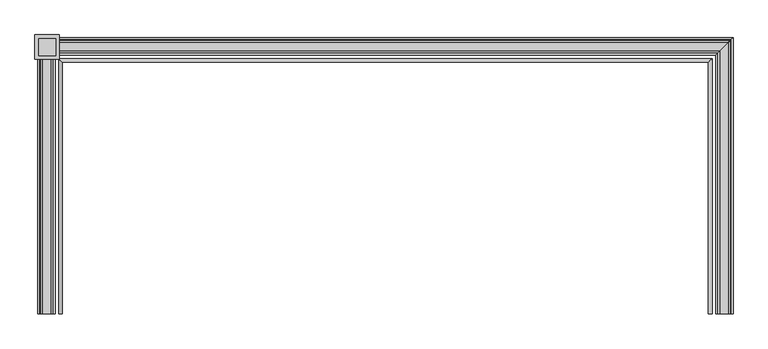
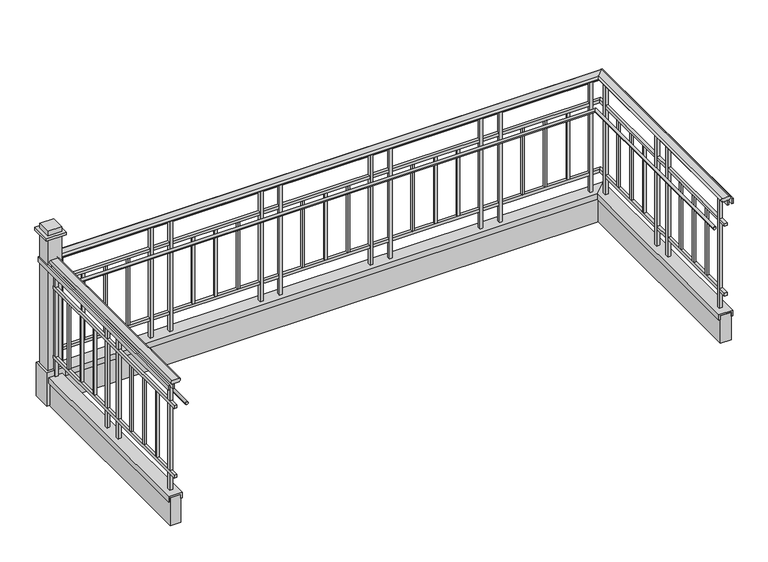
"""IFC4 building model written with IfcOpenShell, lengths in millimetres: railing geometry, Deco Type."""

from ifc_helpers import new_model, si_unit, frame, origin, place, context, project, spatial, polyline, circle_curve, ellipse_curve, outline, extrude, faceted_brep, source, transform, mapped, element, save
from ifc_brep_helpers import plane_surface, cylinder_surface, advanced_brep


def railing_db20407b(model_context):
    return source(origin(), model_context, "Body", "SolidModel", [
        advanced_brep(
        [(10061.4002076, 11455.7088201, 7194.55), (10061.4002076, 11455.7088201, 7172.3248415), (10061.4002076, 11455.7088201, 7162.8), (10124.7499602, 11455.7088201, 7162.8), (10124.7499602, 11455.7088201, 7172.261629), (10124.7499602, 11455.7088201, 7194.55), (10061.4002076, 13298.9465675, 7194.55), (10061.4002076, 13298.9465675, 7172.3248415), (10061.4002076, 13298.9465675, 7162.8), (10124.7499602, 13362.2963201, 7162.8), (10124.7499602, 13362.2963201, 7172.261629), (10124.7499602, 13362.2963201, 7194.55), (5376.3872128, 13298.9465675, 7194.55), (5376.3872128, 13298.9465675, 7172.3248415), (5376.3872128, 13298.9465675, 7162.8), (5313.0374602, 13362.2963201, 7162.8), (5313.0374602, 13362.2963201, 7172.261629), (5313.0374602, 13362.2963201, 7194.55), (5376.3872128, 11455.7088201, 7194.55), (5313.0374602, 11455.7088201, 7194.55), (5313.0374602, 11455.7088201, 7172.261629), (5313.0374602, 11455.7088201, 7162.8), (5376.3872128, 11455.7088201, 7162.8), (5376.3872128, 11455.7088201, 7172.3248415)],
        [
            (0, 1, circle_curve(frame((10061.4002076, 11455.7088201, 7183.4374207), z_axis=(0.0, -1.0, 0.0), x_axis=(1.0, 0.0, 0.0)), 11.1125793)),
            (1, 2),
            (2, 3),
            (3, 4),
            (4, 5, circle_curve(frame((10124.7499602, 11455.7088201, 7183.4058145), z_axis=(0.0, -1.0, 0.0), x_axis=(1.0, 0.0, 0.0)), 11.1441855)),
            (5, 0),
            (0, 6),
            (6, 7, ellipse_curve(frame((10061.4002076, 13298.9465675, 7183.4374207), z_axis=(0.7071067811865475, -0.7071067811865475, 0.0), x_axis=(-0.7071067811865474, -0.7071067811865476, 0.0)), 15.7155603, 11.1125793)),
            (7, 1),
            (7, 8),
            (8, 2),
            (8, 9),
            (9, 3),
            (9, 10),
            (10, 4),
            (10, 11, ellipse_curve(frame((10124.7499602, 13362.2963201, 7183.4058145), z_axis=(0.7071067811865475, -0.7071067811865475, 0.0), x_axis=(-0.7071067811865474, -0.7071067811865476, 0.0)), 15.7602583, 11.1441855)),
            (11, 5),
            (11, 6),
            (6, 12),
            (12, 13, ellipse_curve(frame((5376.3872128, 13298.9465675, 7183.4374207), z_axis=(0.7071067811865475, 0.7071067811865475, 0.0), x_axis=(0.7071067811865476, -0.7071067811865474, 0.0)), 15.7155603, 11.1125793)),
            (13, 7),
            (13, 14),
            (14, 8),
            (14, 15),
            (15, 9),
            (15, 16),
            (16, 10),
            (16, 17, ellipse_curve(frame((5313.0374602, 13362.2963201, 7183.4058145), z_axis=(0.7071067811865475, 0.7071067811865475, 0.0), x_axis=(0.7071067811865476, -0.7071067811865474, 0.0)), 15.7602583, 11.1441855)),
            (17, 11),
            (17, 12),
            (18, 19),
            (19, 20, circle_curve(frame((5313.0374602, 11455.7088201, 7183.4058145), z_axis=(0.0, -1.0, 0.0), x_axis=(-1.0, 0.0, 0.0)), 11.1441855)),
            (20, 21),
            (21, 22),
            (22, 23),
            (23, 18, circle_curve(frame((5376.3872128, 11455.7088201, 7183.4374207), z_axis=(0.0, -1.0, 0.0), x_axis=(-1.0, 0.0, 0.0)), 11.1125793)),
            (12, 18),
            (23, 13),
            (22, 14),
            (21, 15),
            (20, 16),
            (19, 17),
        ],
        [
            plane_surface(frame((10092.9999602, 11455.7088201, 7162.8), z_axis=(0.0, -1.0, 0.0), x_axis=(0.0, 0.0, 1.0))),
            cylinder_surface(frame((10061.4002076, 11455.7088201, 7183.4374207), z_axis=(0.0, -1.0, 0.0), x_axis=(1.0, 0.0, 0.0)), 11.1125793),
            plane_surface(frame((10061.4002076, 11455.7088201, 7172.3248415), z_axis=(-1.0, 0.0, 0.0), x_axis=(0.0, 1.0, 0.0))),
            plane_surface(frame((10061.4002076, 11455.7088201, 7162.8), z_axis=(0.0, 0.0, -1.0), x_axis=(0.0, 1.0, 0.0))),
            plane_surface(frame((10124.7499602, 11455.7088201, 7162.8), z_axis=(1.0, 0.0, 0.0), x_axis=(0.0, 1.0, 0.0))),
            cylinder_surface(frame((10124.7499602, 11455.7088201, 7183.4058145), z_axis=(0.0, -1.0, 0.0), x_axis=(1.0, 0.0, 0.0)), 11.1441855),
            plane_surface(frame((10124.7499602, 11455.7088201, 7194.55), z_axis=(0.0, 0.0, 1.0), x_axis=(0.0, 1.0, 0.0))),
            cylinder_surface(frame((10092.9999602, 13298.9465675, 7183.4374207), z_axis=(1.0, 0.0, 0.0), x_axis=(0.0, 1.0, 0.0)), 11.1125793),
            plane_surface(frame((10061.4002076, 13298.9465675, 7172.3248415), z_axis=(0.0, -1.0, 0.0), x_axis=(-1.0, 0.0, 0.0))),
            plane_surface(frame((10061.4002076, 13298.9465675, 7162.8), z_axis=(0.0, 0.0, -1.0), x_axis=(-1.0, 0.0, 0.0))),
            plane_surface(frame((10124.7499602, 13362.2963201, 7162.8), z_axis=(0.0, 1.0, 0.0), x_axis=(-1.0, 0.0, 0.0))),
            cylinder_surface(frame((10092.9999602, 13362.2963201, 7183.4058145), z_axis=(1.0, 0.0, 0.0), x_axis=(0.0, 1.0, 0.0)), 11.1441855),
            plane_surface(frame((10124.7499602, 13362.2963201, 7194.55), z_axis=(0.0, 0.0, 1.0), x_axis=(-1.0, 0.0, 0.0))),
            plane_surface(frame((5344.7874602, 11455.7088201, 7162.8), z_axis=(0.0, -1.0, 0.0), x_axis=(0.0, 0.0, -1.0))),
            cylinder_surface(frame((5376.3872128, 13330.5463201, 7183.4374207), z_axis=(0.0, 1.0, 0.0), x_axis=(-1.0, 0.0, 0.0)), 11.1125793),
            plane_surface(frame((5376.3872128, 13298.9465675, 7172.3248415), z_axis=(1.0, 0.0, 0.0), x_axis=(0.0, -1.0, 0.0))),
            plane_surface(frame((5376.3872128, 13298.9465675, 7162.8), z_axis=(0.0, 0.0, -1.0), x_axis=(0.0, -1.0, 0.0))),
            plane_surface(frame((5313.0374602, 13362.2963201, 7162.8), z_axis=(-1.0, 0.0, 0.0), x_axis=(0.0, -1.0, 0.0))),
            cylinder_surface(frame((5313.0374602, 13330.5463201, 7183.4058145), z_axis=(0.0, 1.0, 0.0), x_axis=(-1.0, 0.0, 0.0)), 11.1441855),
            plane_surface(frame((5313.0374602, 13362.2963201, 7194.55), z_axis=(0.0, 0.0, 1.0), x_axis=(0.0, -1.0, 0.0))),
        ],
        [
            (0, [[1, 2, 3, 4, 5, 6]]),
            (1, [[-1, 7, 8, 9]]),
            (2, [[-2, -9, 10, 11]]),
            (3, [[-3, -11, 12, 13]]),
            (4, [[-4, -13, 14, 15]]),
            (5, [[-5, -15, 16, 17]]),
            (6, [[-6, -17, 18, -7]]),
            (7, [[-8, 19, 20, 21]]),
            (8, [[-10, -21, 22, 23]]),
            (9, [[-12, -23, 24, 25]]),
            (10, [[-14, -25, 26, 27]]),
            (11, [[-16, -27, 28, 29]]),
            (12, [[-18, -29, 30, -19]]),
            (13, [[31, 32, 33, 34, 35, 36]]),
            (14, [[-20, 37, -36, 38]]),
            (15, [[-22, -38, -35, 39]]),
            (16, [[-24, -39, -34, 40]]),
            (17, [[-26, -40, -33, 41]]),
            (18, [[-28, -41, -32, 42]]),
            (19, [[-30, -42, -31, -37]]),
        ],
    ),
        faceted_brep([(10118.4750839, 11455.7088201, 7162.8), (10105.7750839, 11455.7088201, 7162.8), (10105.7750839, 11455.7088201, 7118.35), (10118.4750839, 11455.7088201, 7118.35), (10118.4750839, 13356.0214438, 7162.8), (10105.7750839, 13343.3214438, 7162.8), (10105.7750839, 13343.3214438, 7118.35), (10118.4750839, 13356.0214438, 7118.35), (5319.3123365, 13356.0214438, 7162.8), (5332.0123365, 13343.3214438, 7162.8), (5332.0123365, 13343.3214438, 7118.35), (5319.3123365, 13356.0214438, 7118.35), (5319.3123365, 11455.7088201, 7162.8), (5319.3123365, 11455.7088201, 7118.35), (5332.0123365, 11455.7088201, 7118.35), (5332.0123365, 11455.7088201, 7162.8)], [[[0, 1, 2, 3]], [[1, 0, 4, 5]], [[2, 1, 5, 6]], [[3, 2, 6, 7]], [[0, 3, 7, 4]], [[5, 4, 8, 9]], [[6, 5, 9, 10]], [[7, 6, 10, 11]], [[4, 7, 11, 8]], [[12, 13, 14, 15]], [[9, 8, 12, 15]], [[10, 9, 15, 14]], [[11, 10, 14, 13]], [[8, 11, 13, 12]]]),
        faceted_brep([(10156.5750839, 11455.7088201, 7162.8), (10143.8750839, 11455.7088201, 7162.8), (10143.8750839, 11455.7088201, 7118.35), (10156.5750839, 11455.7088201, 7118.35), (10156.5750839, 13394.1214438, 7162.8), (10143.8750839, 13381.4214438, 7162.8), (10143.8750839, 13381.4214438, 7118.35), (10156.5750839, 13394.1214438, 7118.35), (5281.2123365, 13394.1214438, 7162.8), (5293.9123365, 13381.4214438, 7162.8), (5293.9123365, 13381.4214438, 7118.35), (5281.2123365, 13394.1214438, 7118.35), (5281.2123365, 11455.7088201, 7162.8), (5281.2123365, 11455.7088201, 7118.35), (5293.9123365, 11455.7088201, 7118.35), (5293.9123365, 11455.7088201, 7162.8)], [[[0, 1, 2, 3]], [[1, 0, 4, 5]], [[2, 1, 5, 6]], [[3, 2, 6, 7]], [[0, 3, 7, 4]], [[5, 4, 8, 9]], [[6, 5, 9, 10]], [[7, 6, 10, 11]], [[4, 7, 11, 8]], [[12, 13, 14, 15]], [[9, 8, 12, 15]], [[10, 9, 15, 14]], [[11, 10, 14, 13]], [[8, 11, 13, 12]]]),
        faceted_brep([(10105.6999602, 11455.7088201, 6959.6), (10080.2999602, 11455.7088201, 6959.6), (10080.2999602, 11455.7088201, 6934.2), (10105.6999602, 11455.7088201, 6934.2), (10105.6999602, 13343.2463201, 6959.6), (10080.2999602, 13317.8463201, 6959.6), (10080.2999602, 13317.8463201, 6934.2), (10105.6999602, 13343.2463201, 6934.2), (5332.0874602, 13343.2463201, 6959.6), (5357.4874602, 13317.8463201, 6959.6), (5357.4874602, 13317.8463201, 6934.2), (5332.0874602, 13343.2463201, 6934.2), (5332.0874602, 11455.7088201, 6959.6), (5332.0874602, 11455.7088201, 6934.2), (5357.4874602, 11455.7088201, 6934.2), (5357.4874602, 11455.7088201, 6959.6)], [[[0, 1, 2, 3]], [[1, 0, 4, 5]], [[2, 1, 5, 6]], [[3, 2, 6, 7]], [[0, 3, 7, 4]], [[5, 4, 8, 9]], [[6, 5, 9, 10]], [[7, 6, 10, 11]], [[4, 7, 11, 8]], [[12, 13, 14, 15]], [[9, 8, 12, 15]], [[10, 9, 15, 14]], [[11, 10, 14, 13]], [[8, 11, 13, 12]]]),
        advanced_brep(
        [(9983.4624602, 11455.7088201, 6946.9), (10008.8624602, 11455.7088201, 6946.9), (9983.4624602, 13221.0088201, 6946.9), (10008.8624602, 13246.4088201, 6946.9), (5454.3249602, 13221.0088201, 6946.9), (5428.9249602, 13246.4088201, 6946.9), (5454.3249602, 11455.7088201, 6946.9), (5428.9249602, 11455.7088201, 6946.9)],
        [
            (0, 1, circle_curve(frame((9996.1624602, 11455.7088201, 6946.9), z_axis=(0.0, -1.0, 0.0), x_axis=(1.0, 0.0, 0.0)), 12.7)),
            (1, 0, circle_curve(frame((9996.1624602, 11455.7088201, 6946.9), z_axis=(0.0, -1.0, 0.0), x_axis=(1.0, 0.0, 0.0)), 12.7)),
            (0, 2),
            (2, 3, ellipse_curve(frame((9996.1624602, 13233.7088201, 6946.9), z_axis=(0.7071067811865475, -0.7071067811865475, 0.0), x_axis=(-0.7071067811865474, -0.7071067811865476, 0.0)), 17.9605122, 12.7)),
            (3, 1),
            (3, 2, ellipse_curve(frame((9996.1624602, 13233.7088201, 6946.9), z_axis=(0.7071067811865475, -0.7071067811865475, 0.0), x_axis=(-0.7071067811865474, -0.7071067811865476, 0.0)), 17.9605122, 12.7)),
            (2, 4),
            (4, 5, ellipse_curve(frame((5441.6249602, 13233.7088201, 6946.9), z_axis=(0.7071067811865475, 0.7071067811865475, 0.0), x_axis=(0.7071067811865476, -0.7071067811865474, 0.0)), 17.9605122, 12.7)),
            (5, 3),
            (5, 4, ellipse_curve(frame((5441.6249602, 13233.7088201, 6946.9), z_axis=(0.7071067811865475, 0.7071067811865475, 0.0), x_axis=(0.7071067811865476, -0.7071067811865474, 0.0)), 17.9605122, 12.7)),
            (6, 7, circle_curve(frame((5441.6249602, 11455.7088201, 6946.9), z_axis=(0.0, -1.0, 0.0), x_axis=(-1.0, 0.0, 0.0)), 12.7)),
            (7, 6, circle_curve(frame((5441.6249602, 11455.7088201, 6946.9), z_axis=(0.0, -1.0, 0.0), x_axis=(-1.0, 0.0, 0.0)), 12.7)),
            (4, 6),
            (7, 5),
        ],
        [
            plane_surface(frame((9996.1624602, 11455.7088201, 6946.9), z_axis=(0.0, -1.0, 0.0), x_axis=(0.0, 0.0, 1.0))),
            cylinder_surface(frame((9996.1624602, 11455.7088201, 6946.9), z_axis=(0.0, -1.0, 0.0), x_axis=(1.0, 0.0, 0.0)), 12.7),
            cylinder_surface(frame((9996.1624602, 13233.7088201, 6946.9), z_axis=(1.0, 0.0, 0.0), x_axis=(0.0, 1.0, 0.0)), 12.7),
            plane_surface(frame((5441.6249602, 11455.7088201, 6946.9), z_axis=(0.0, -1.0, 0.0), x_axis=(0.0, 0.0, -1.0))),
            cylinder_surface(frame((5441.6249602, 13233.7088201, 6946.9), z_axis=(0.0, 1.0, 0.0), x_axis=(-1.0, 0.0, 0.0)), 12.7),
        ],
        [
            (0, [[1, 2]]),
            (1, [[-1, 3, 4, 5]]),
            (1, [[-2, -5, 6, -3]]),
            (2, [[-4, 7, 8, 9]]),
            (2, [[-6, -9, 10, -7]]),
            (3, [[11, 12]]),
            (4, [[-8, 13, -12, 14]]),
            (4, [[-10, -14, -11, -13]]),
        ],
    ),
        faceted_brep([(10105.6999602, 11455.7088201, 6324.6), (10080.2999602, 11455.7088201, 6324.6), (10080.2999602, 11455.7088201, 6299.2), (10105.6999602, 11455.7088201, 6299.2), (10105.6999602, 13343.2463201, 6324.6), (10080.2999602, 13317.8463201, 6324.6), (10080.2999602, 13317.8463201, 6299.2), (10105.6999602, 13343.2463201, 6299.2), (5332.0874602, 13343.2463201, 6324.6), (5357.4874602, 13317.8463201, 6324.6), (5357.4874602, 13317.8463201, 6299.2), (5332.0874602, 13343.2463201, 6299.2), (5332.0874602, 11455.7088201, 6324.6), (5332.0874602, 11455.7088201, 6299.2), (5357.4874602, 11455.7088201, 6299.2), (5357.4874602, 11455.7088201, 6324.6)], [[[0, 1, 2, 3]], [[1, 0, 4, 5]], [[2, 1, 5, 6]], [[3, 2, 6, 7]], [[0, 3, 7, 4]], [[5, 4, 8, 9]], [[6, 5, 9, 10]], [[7, 6, 10, 11]], [[4, 7, 11, 8]], [[12, 13, 14, 15]], [[9, 8, 12, 15]], [[10, 9, 15, 14]], [[11, 10, 14, 13]], [[8, 11, 13, 12]]]),
        faceted_brep([(10034.3375839, 11455.7088201, 6145.0362864), (10034.3375839, 11455.7088201, 6096.0), (10047.0375839, 11455.7088201, 6096.0), (10047.0375839, 11455.7088201, 6132.3362864), (10139.1125839, 11455.7088201, 6132.3362864), (10139.1125839, 11455.7088201, 6096.0), (10151.8125839, 11455.7088201, 6096.0), (10151.8125839, 11455.7088201, 6145.0362864), (10034.3375839, 13271.8839438, 6145.0362864), (10034.3375839, 13271.8839438, 6096.0), (10047.0375839, 13284.5839438, 6096.0), (10047.0375839, 13284.5839438, 6132.3362864), (10139.1125839, 13376.6589438, 6132.3362864), (10139.1125839, 13376.6589438, 6096.0), (10151.8125839, 13389.3589438, 6096.0), (10151.8125839, 13389.3589438, 6145.0362864), (5403.4498365, 13271.8839438, 6145.0362864), (5403.4498365, 13271.8839438, 6096.0), (5390.7498365, 13284.5839438, 6096.0), (5390.7498365, 13284.5839438, 6132.3362864), (5298.6748365, 13376.6589438, 6132.3362864), (5298.6748365, 13376.6589438, 6096.0), (5285.9748365, 13389.3589438, 6096.0), (5285.9748365, 13389.3589438, 6145.0362864), (5403.4498365, 11455.7088201, 6145.0362864), (5285.9748365, 11455.7088201, 6145.0362864), (5285.9748365, 11455.7088201, 6096.0), (5298.6748365, 11455.7088201, 6096.0), (5298.6748365, 11455.7088201, 6132.3362864), (5390.7498365, 11455.7088201, 6132.3362864), (5390.7498365, 11455.7088201, 6096.0), (5403.4498365, 11455.7088201, 6096.0)], [[[0, 1, 2, 3, 4, 5, 6, 7]], [[1, 0, 8, 9]], [[2, 1, 9, 10]], [[3, 2, 10, 11]], [[4, 3, 11, 12]], [[5, 4, 12, 13]], [[6, 5, 13, 14]], [[7, 6, 14, 15]], [[0, 7, 15, 8]], [[9, 8, 16, 17]], [[10, 9, 17, 18]], [[11, 10, 18, 19]], [[12, 11, 19, 20]], [[13, 12, 20, 21]], [[14, 13, 21, 22]], [[15, 14, 22, 23]], [[8, 15, 23, 16]], [[24, 25, 26, 27, 28, 29, 30, 31]], [[17, 16, 24, 31]], [[18, 17, 31, 30]], [[19, 18, 30, 29]], [[20, 19, 29, 28]], [[21, 20, 28, 27]], [[22, 21, 27, 26]], [[23, 22, 26, 25]], [[16, 23, 25, 24]]]),
        faceted_brep([(10047.0375839, 11455.7088201, 6132.3362864), (10047.0375839, 11455.7088201, 5878.3362864), (10139.1125839, 11455.7088201, 5878.3362864), (10139.1125839, 11455.7088201, 6132.3362864), (10047.0375839, 13284.5839438, 6132.3362864), (10047.0375839, 13284.5839438, 5878.3362864), (10139.1125839, 13376.6589438, 5878.3362864), (10139.1125839, 13376.6589438, 6132.3362864), (5390.7498365, 13284.5839438, 6132.3362864), (5390.7498365, 13284.5839438, 5878.3362864), (5298.6748365, 13376.6589438, 5878.3362864), (5298.6748365, 13376.6589438, 6132.3362864), (5390.7498365, 11455.7088201, 6132.3362864), (5298.6748365, 11455.7088201, 6132.3362864), (5298.6748365, 11455.7088201, 5878.3362864), (5390.7498365, 11455.7088201, 5878.3362864)], [[[0, 1, 2, 3]], [[1, 0, 4, 5]], [[2, 1, 5, 6]], [[3, 2, 6, 7]], [[0, 3, 7, 4]], [[5, 4, 8, 9]], [[6, 5, 9, 10]], [[7, 6, 10, 11]], [[4, 7, 11, 8]], [[12, 13, 14, 15]], [[9, 8, 12, 15]], [[10, 9, 15, 14]], [[11, 10, 14, 13]], [[8, 11, 13, 12]]]),
        extrude(outline(polyline([(5334.8655852, 11550.9996749), (5360.2655852, 11550.9996749), (5360.2655852, 11525.5996749), (5334.8655852, 11525.5996749), (5334.8655852, 11550.9996749)])), frame((0.0, 0.0, 6145.0362864), z_axis=(0.0, 0.0, 1.0), x_axis=(1.0, 0.0, 0.0)), (0.0, 0.0, 1.0), 1017.7637136),
        extrude(outline(polyline([(5338.0405852, 11740.5366693), (5357.0905852, 11740.5366693), (5357.0905852, 11721.4866693), (5338.0405852, 11721.4866693), (5338.0405852, 11740.5366693)])), frame((0.0, 0.0, 6324.6), z_axis=(0.0, 0.0, 1.0), x_axis=(1.0, 0.0, 0.0)), (0.0, 0.0, 1.0), 609.6),
        extrude(outline(polyline([(5338.0405852, 11933.2486638), (5357.0905852, 11933.2486638), (5357.0905852, 11914.1986638), (5338.0405852, 11914.1986638), (5338.0405852, 11933.2486638)])), frame((0.0, 0.0, 6324.6), z_axis=(0.0, 0.0, 1.0), x_axis=(1.0, 0.0, 0.0)), (0.0, 0.0, 1.0), 609.6),
        extrude(outline(polyline([(5338.0405852, 12125.9606583), (5357.0905852, 12125.9606583), (5357.0905852, 12106.9106583), (5338.0405852, 12106.9106583), (5338.0405852, 12125.9606583)])), frame((0.0, 0.0, 6324.6), z_axis=(0.0, 0.0, 1.0), x_axis=(1.0, 0.0, 0.0)), (0.0, 0.0, 1.0), 609.6),
        extrude(outline(polyline([(5334.8655852, 12321.8476528), (5360.2655852, 12321.8476528), (5360.2655852, 12296.4476528), (5334.8655852, 12296.4476528), (5334.8655852, 12321.8476528)])), frame((0.0, 0.0, 6145.0362864), z_axis=(0.0, 0.0, 1.0), x_axis=(1.0, 0.0, 0.0)), (0.0, 0.0, 1.0), 1017.7637136),
        extrude(outline(polyline([(5334.8655852, 12487.0293624), (5360.2655852, 12487.0293624), (5360.2655852, 12461.6293624), (5334.8655852, 12461.6293624), (5334.8655852, 12487.0293624)])), frame((0.0, 0.0, 6145.0362864), z_axis=(0.0, 0.0, 1.0), x_axis=(1.0, 0.0, 0.0)), (0.0, 0.0, 1.0), 1017.7637136),
        extrude(outline(polyline([(5338.0405852, 12676.5663568), (5357.0905852, 12676.5663568), (5357.0905852, 12657.5163568), (5338.0405852, 12657.5163568), (5338.0405852, 12676.5663568)])), frame((0.0, 0.0, 6324.6), z_axis=(0.0, 0.0, 1.0), x_axis=(1.0, 0.0, 0.0)), (0.0, 0.0, 1.0), 609.6),
        extrude(outline(polyline([(5338.0405852, 12869.2783513), (5357.0905852, 12869.2783513), (5357.0905852, 12850.2283513), (5338.0405852, 12850.2283513), (5338.0405852, 12869.2783513)])), frame((0.0, 0.0, 6324.6), z_axis=(0.0, 0.0, 1.0), x_axis=(1.0, 0.0, 0.0)), (0.0, 0.0, 1.0), 609.6),
        extrude(outline(polyline([(5338.0405852, 13061.9903458), (5357.0905852, 13061.9903458), (5357.0905852, 13042.9403458), (5338.0405852, 13042.9403458), (5338.0405852, 13061.9903458)])), frame((0.0, 0.0, 6324.6), z_axis=(0.0, 0.0, 1.0), x_axis=(1.0, 0.0, 0.0)), (0.0, 0.0, 1.0), 609.6),
        extrude(outline(polyline([(5334.8655852, 13257.8773403), (5360.2655852, 13257.8773403), (5360.2655852, 13232.4773403), (5334.8655852, 13232.4773403), (5334.8655852, 13257.8773403)])), frame((0.0, 0.0, 6145.0362864), z_axis=(0.0, 0.0, 1.0), x_axis=(1.0, 0.0, 0.0)), (0.0, 0.0, 1.0), 1017.7637136),
        extrude(outline(polyline([(5443.959519, 13340.4681951), (5443.959519, 13315.0681951), (5418.559519, 13315.0681951), (5418.559519, 13340.4681951), (5443.959519, 13340.4681951)])), frame((0.0, 0.0, 6145.0362864), z_axis=(0.0, 0.0, 1.0), x_axis=(1.0, 0.0, 0.0)), (0.0, 0.0, 1.0), 1017.7637136),
        extrude(outline(polyline([(5636.0703646, 13337.2931951), (5636.0703646, 13318.2431951), (5617.0203646, 13318.2431951), (5617.0203646, 13337.2931951), (5636.0703646, 13337.2931951)])), frame((0.0, 0.0, 6324.6), z_axis=(0.0, 0.0, 1.0), x_axis=(1.0, 0.0, 0.0)), (0.0, 0.0, 1.0), 609.6),
        extrude(outline(polyline([(5831.3562102, 13337.2931951), (5831.3562102, 13318.2431951), (5812.3062102, 13318.2431951), (5812.3062102, 13337.2931951), (5831.3562102, 13337.2931951)])), frame((0.0, 0.0, 6324.6), z_axis=(0.0, 0.0, 1.0), x_axis=(1.0, 0.0, 0.0)), (0.0, 0.0, 1.0), 609.6),
        extrude(outline(polyline([(6026.6420558, 13337.2931951), (6026.6420558, 13318.2431951), (6007.5920558, 13318.2431951), (6007.5920558, 13337.2931951), (6026.6420558, 13337.2931951)])), frame((0.0, 0.0, 6324.6), z_axis=(0.0, 0.0, 1.0), x_axis=(1.0, 0.0, 0.0)), (0.0, 0.0, 1.0), 609.6),
        extrude(outline(polyline([(6225.1029014, 13340.4681951), (6225.1029014, 13315.0681951), (6199.7029014, 13315.0681951), (6199.7029014, 13340.4681951), (6225.1029014, 13340.4681951)])), frame((0.0, 0.0, 6145.0362864), z_axis=(0.0, 0.0, 1.0), x_axis=(1.0, 0.0, 0.0)), (0.0, 0.0, 1.0), 1017.7637136),
        extrude(outline(polyline([(6392.490769, 13340.4681951), (6392.490769, 13315.0681951), (6367.090769, 13315.0681951), (6367.090769, 13340.4681951), (6392.490769, 13340.4681951)])), frame((0.0, 0.0, 6145.0362864), z_axis=(0.0, 0.0, 1.0), x_axis=(1.0, 0.0, 0.0)), (0.0, 0.0, 1.0), 1017.7637136),
        extrude(outline(polyline([(6584.6016146, 13337.2931951), (6584.6016146, 13318.2431951), (6565.5516146, 13318.2431951), (6565.5516146, 13337.2931951), (6584.6016146, 13337.2931951)])), frame((0.0, 0.0, 6324.6), z_axis=(0.0, 0.0, 1.0), x_axis=(1.0, 0.0, 0.0)), (0.0, 0.0, 1.0), 609.6),
        extrude(outline(polyline([(6779.8874602, 13337.2931951), (6779.8874602, 13318.2431951), (6760.8374602, 13318.2431951), (6760.8374602, 13337.2931951), (6779.8874602, 13337.2931951)])), frame((0.0, 0.0, 6324.6), z_axis=(0.0, 0.0, 1.0), x_axis=(1.0, 0.0, 0.0)), (0.0, 0.0, 1.0), 609.6),
        extrude(outline(polyline([(6975.1733058, 13337.2931951), (6975.1733058, 13318.2431951), (6956.1233058, 13318.2431951), (6956.1233058, 13337.2931951), (6975.1733058, 13337.2931951)])), frame((0.0, 0.0, 6324.6), z_axis=(0.0, 0.0, 1.0), x_axis=(1.0, 0.0, 0.0)), (0.0, 0.0, 1.0), 609.6),
        extrude(outline(polyline([(7173.6341514, 13340.4681951), (7173.6341514, 13315.0681951), (7148.2341514, 13315.0681951), (7148.2341514, 13340.4681951), (7173.6341514, 13340.4681951)])), frame((0.0, 0.0, 6145.0362864), z_axis=(0.0, 0.0, 1.0), x_axis=(1.0, 0.0, 0.0)), (0.0, 0.0, 1.0), 1017.7637136),
        extrude(outline(polyline([(7341.022019, 13340.4681951), (7341.022019, 13315.0681951), (7315.622019, 13315.0681951), (7315.622019, 13340.4681951), (7341.022019, 13340.4681951)])), frame((0.0, 0.0, 6145.0362864), z_axis=(0.0, 0.0, 1.0), x_axis=(1.0, 0.0, 0.0)), (0.0, 0.0, 1.0), 1017.7637136),
        extrude(outline(polyline([(7533.1328646, 13337.2931951), (7533.1328646, 13318.2431951), (7514.0828646, 13318.2431951), (7514.0828646, 13337.2931951), (7533.1328646, 13337.2931951)])), frame((0.0, 0.0, 6324.6), z_axis=(0.0, 0.0, 1.0), x_axis=(1.0, 0.0, 0.0)), (0.0, 0.0, 1.0), 609.6),
        extrude(outline(polyline([(7728.4187102, 13337.2931951), (7728.4187102, 13318.2431951), (7709.3687102, 13318.2431951), (7709.3687102, 13337.2931951), (7728.4187102, 13337.2931951)])), frame((0.0, 0.0, 6324.6), z_axis=(0.0, 0.0, 1.0), x_axis=(1.0, 0.0, 0.0)), (0.0, 0.0, 1.0), 609.6),
        extrude(outline(polyline([(7923.7045558, 13337.2931951), (7923.7045558, 13318.2431951), (7904.6545558, 13318.2431951), (7904.6545558, 13337.2931951), (7923.7045558, 13337.2931951)])), frame((0.0, 0.0, 6324.6), z_axis=(0.0, 0.0, 1.0), x_axis=(1.0, 0.0, 0.0)), (0.0, 0.0, 1.0), 609.6),
        extrude(outline(polyline([(8122.1654014, 13340.4681951), (8122.1654014, 13315.0681951), (8096.7654014, 13315.0681951), (8096.7654014, 13340.4681951), (8122.1654014, 13340.4681951)])), frame((0.0, 0.0, 6145.0362864), z_axis=(0.0, 0.0, 1.0), x_axis=(1.0, 0.0, 0.0)), (0.0, 0.0, 1.0), 1017.7637136),
        extrude(outline(polyline([(8289.553269, 13340.4681951), (8289.553269, 13315.0681951), (8264.153269, 13315.0681951), (8264.153269, 13340.4681951), (8289.553269, 13340.4681951)])), frame((0.0, 0.0, 6145.0362864), z_axis=(0.0, 0.0, 1.0), x_axis=(1.0, 0.0, 0.0)), (0.0, 0.0, 1.0), 1017.7637136),
        extrude(outline(polyline([(8481.6641146, 13337.2931951), (8481.6641146, 13318.2431951), (8462.6141146, 13318.2431951), (8462.6141146, 13337.2931951), (8481.6641146, 13337.2931951)])), frame((0.0, 0.0, 6324.6), z_axis=(0.0, 0.0, 1.0), x_axis=(1.0, 0.0, 0.0)), (0.0, 0.0, 1.0), 609.6),
        extrude(outline(polyline([(8676.9499602, 13337.2931951), (8676.9499602, 13318.2431951), (8657.8999602, 13318.2431951), (8657.8999602, 13337.2931951), (8676.9499602, 13337.2931951)])), frame((0.0, 0.0, 6324.6), z_axis=(0.0, 0.0, 1.0), x_axis=(1.0, 0.0, 0.0)), (0.0, 0.0, 1.0), 609.6),
        extrude(outline(polyline([(8872.2358058, 13337.2931951), (8872.2358058, 13318.2431951), (8853.1858058, 13318.2431951), (8853.1858058, 13337.2931951), (8872.2358058, 13337.2931951)])), frame((0.0, 0.0, 6324.6), z_axis=(0.0, 0.0, 1.0), x_axis=(1.0, 0.0, 0.0)), (0.0, 0.0, 1.0), 609.6),
        extrude(outline(polyline([(9070.6966514, 13340.4681951), (9070.6966514, 13315.0681951), (9045.2966514, 13315.0681951), (9045.2966514, 13340.4681951), (9070.6966514, 13340.4681951)])), frame((0.0, 0.0, 6145.0362864), z_axis=(0.0, 0.0, 1.0), x_axis=(1.0, 0.0, 0.0)), (0.0, 0.0, 1.0), 1017.7637136),
        extrude(outline(polyline([(9238.084519, 13340.4681951), (9238.084519, 13315.0681951), (9212.684519, 13315.0681951), (9212.684519, 13340.4681951), (9238.084519, 13340.4681951)])), frame((0.0, 0.0, 6145.0362864), z_axis=(0.0, 0.0, 1.0), x_axis=(1.0, 0.0, 0.0)), (0.0, 0.0, 1.0), 1017.7637136),
        extrude(outline(polyline([(9430.1953646, 13337.2931951), (9430.1953646, 13318.2431951), (9411.1453646, 13318.2431951), (9411.1453646, 13337.2931951), (9430.1953646, 13337.2931951)])), frame((0.0, 0.0, 6324.6), z_axis=(0.0, 0.0, 1.0), x_axis=(1.0, 0.0, 0.0)), (0.0, 0.0, 1.0), 609.6),
        extrude(outline(polyline([(9625.4812102, 13337.2931951), (9625.4812102, 13318.2431951), (9606.4312102, 13318.2431951), (9606.4312102, 13337.2931951), (9625.4812102, 13337.2931951)])), frame((0.0, 0.0, 6324.6), z_axis=(0.0, 0.0, 1.0), x_axis=(1.0, 0.0, 0.0)), (0.0, 0.0, 1.0), 609.6),
        extrude(outline(polyline([(9820.7670558, 13337.2931951), (9820.7670558, 13318.2431951), (9801.7170558, 13318.2431951), (9801.7170558, 13337.2931951), (9820.7670558, 13337.2931951)])), frame((0.0, 0.0, 6324.6), z_axis=(0.0, 0.0, 1.0), x_axis=(1.0, 0.0, 0.0)), (0.0, 0.0, 1.0), 609.6),
        extrude(outline(polyline([(10019.2279014, 13340.4681951), (10019.2279014, 13315.0681951), (9993.8279014, 13315.0681951), (9993.8279014, 13340.4681951), (10019.2279014, 13340.4681951)])), frame((0.0, 0.0, 6145.0362864), z_axis=(0.0, 0.0, 1.0), x_axis=(1.0, 0.0, 0.0)), (0.0, 0.0, 1.0), 1017.7637136),
        extrude(outline(polyline([(10102.9218352, 13232.4773403), (10077.5218352, 13232.4773403), (10077.5218352, 13257.8773403), (10102.9218352, 13257.8773403), (10102.9218352, 13232.4773403)])), frame((0.0, 0.0, 6145.0362864), z_axis=(0.0, 0.0, 1.0), x_axis=(1.0, 0.0, 0.0)), (0.0, 0.0, 1.0), 1017.7637136),
        extrude(outline(polyline([(10099.7468352, 13042.9403458), (10080.6968352, 13042.9403458), (10080.6968352, 13061.9903458), (10099.7468352, 13061.9903458), (10099.7468352, 13042.9403458)])), frame((0.0, 0.0, 6324.6), z_axis=(0.0, 0.0, 1.0), x_axis=(1.0, 0.0, 0.0)), (0.0, 0.0, 1.0), 609.6),
        extrude(outline(polyline([(10099.7468352, 12850.2283513), (10080.6968352, 12850.2283513), (10080.6968352, 12869.2783513), (10099.7468352, 12869.2783513), (10099.7468352, 12850.2283513)])), frame((0.0, 0.0, 6324.6), z_axis=(0.0, 0.0, 1.0), x_axis=(1.0, 0.0, 0.0)), (0.0, 0.0, 1.0), 609.6),
        extrude(outline(polyline([(10099.7468352, 12657.5163568), (10080.6968352, 12657.5163568), (10080.6968352, 12676.5663568), (10099.7468352, 12676.5663568), (10099.7468352, 12657.5163568)])), frame((0.0, 0.0, 6324.6), z_axis=(0.0, 0.0, 1.0), x_axis=(1.0, 0.0, 0.0)), (0.0, 0.0, 1.0), 609.6),
        extrude(outline(polyline([(10102.9218352, 12461.6293624), (10077.5218352, 12461.6293624), (10077.5218352, 12487.0293624), (10102.9218352, 12487.0293624), (10102.9218352, 12461.6293624)])), frame((0.0, 0.0, 6145.0362864), z_axis=(0.0, 0.0, 1.0), x_axis=(1.0, 0.0, 0.0)), (0.0, 0.0, 1.0), 1017.7637136),
        extrude(outline(polyline([(10102.9218352, 12296.4476528), (10077.5218352, 12296.4476528), (10077.5218352, 12321.8476528), (10102.9218352, 12321.8476528), (10102.9218352, 12296.4476528)])), frame((0.0, 0.0, 6145.0362864), z_axis=(0.0, 0.0, 1.0), x_axis=(1.0, 0.0, 0.0)), (0.0, 0.0, 1.0), 1017.7637136),
        extrude(outline(polyline([(10099.7468352, 12106.9106583), (10080.6968352, 12106.9106583), (10080.6968352, 12125.9606583), (10099.7468352, 12125.9606583), (10099.7468352, 12106.9106583)])), frame((0.0, 0.0, 6324.6), z_axis=(0.0, 0.0, 1.0), x_axis=(1.0, 0.0, 0.0)), (0.0, 0.0, 1.0), 609.6),
        extrude(outline(polyline([(10099.7468352, 11914.1986638), (10080.6968352, 11914.1986638), (10080.6968352, 11933.2486638), (10099.7468352, 11933.2486638), (10099.7468352, 11914.1986638)])), frame((0.0, 0.0, 6324.6), z_axis=(0.0, 0.0, 1.0), x_axis=(1.0, 0.0, 0.0)), (0.0, 0.0, 1.0), 609.6),
        extrude(outline(polyline([(10099.7468352, 11721.4866693), (10080.6968352, 11721.4866693), (10080.6968352, 11740.5366693), (10099.7468352, 11740.5366693), (10099.7468352, 11721.4866693)])), frame((0.0, 0.0, 6324.6), z_axis=(0.0, 0.0, 1.0), x_axis=(1.0, 0.0, 0.0)), (0.0, 0.0, 1.0), 609.6),
        extrude(outline(polyline([(10102.9218352, 11525.5996749), (10077.5218352, 11525.5996749), (10077.5218352, 11550.9996749), (10102.9218352, 11550.9996749), (10102.9218352, 11525.5996749)])), frame((0.0, 0.0, 6145.0362864), z_axis=(0.0, 0.0, 1.0), x_axis=(1.0, 0.0, 0.0)), (0.0, 0.0, 1.0), 1017.7637136),
        extrude(outline(polyline([(5426.9405852, 13248.3931951), (5268.1905852, 13248.3931951), (5268.1905852, 13407.1431951), (5426.9405852, 13407.1431951), (5426.9405852, 13248.3931951)])), frame((0.0, 0.0, 5892.8), z_axis=(0.0, 0.0, 1.0), x_axis=(1.0, 0.0, 0.0)), (0.0, 0.0, 1.0), 304.8),
        extrude(outline(polyline([(5407.8905852, 13267.4431951), (5287.2405852, 13267.4431951), (5287.2405852, 13388.0931951), (5407.8905852, 13388.0931951), (5407.8905852, 13267.4431951)])), frame((0.0, 0.0, 6197.6), z_axis=(0.0, 0.0, 1.0), x_axis=(1.0, 0.0, 0.0)), (0.0, 0.0, 1.0), 1270.0),
        extrude(outline(polyline([(5433.2905852, 13413.4931951), (5433.2905852, 13242.0431951), (5261.8405852, 13242.0431951), (5261.8405852, 13413.4931951), (5433.2905852, 13413.4931951)]), holes=[polyline([(5287.2405852, 13388.0931951), (5287.2405852, 13267.4431951), (5407.8905852, 13267.4431951), (5407.8905852, 13388.0931951), (5287.2405852, 13388.0931951)])]), frame((0.0, 0.0, 7400.925), z_axis=(0.0, 0.0, 1.0), x_axis=(1.0, 0.0, 0.0)), (0.0, 0.0, 1.0), 25.4),
    ])


if __name__ == "__main__":
    model = new_model("IFC4")
    model_context = context("Model", 3, world=origin())
    ifc_project = project(units=[si_unit("LENGTHUNIT", "METRE", prefix="MILLI")], contexts=[model_context])
    site = spatial("IfcSite", under=ifc_project)
    building = spatial("IfcBuilding", under=site)
    placement = place(None, origin())
    railing_shape = railing_db20407b(model_context)
    element("IfcRailing", 1, ObjectType="Deco Type", at=placement, inside=building, context=model_context, shape_type="MappedRepresentation", body=[
        mapped(railing_shape, transform((0.0, 0.0, 0.0), x_axis=(1.0, 0.0, 0.0), y_axis=(0.0, 1.0, 0.0), z_axis=(0.0, 0.0, 1.0))),
    ])
    save(model, "model.ifc")
